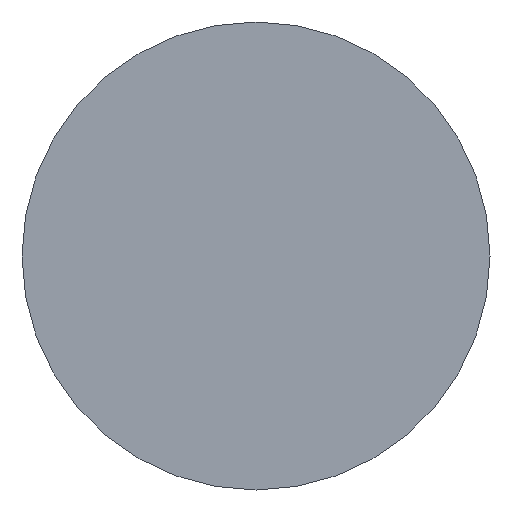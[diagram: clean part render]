
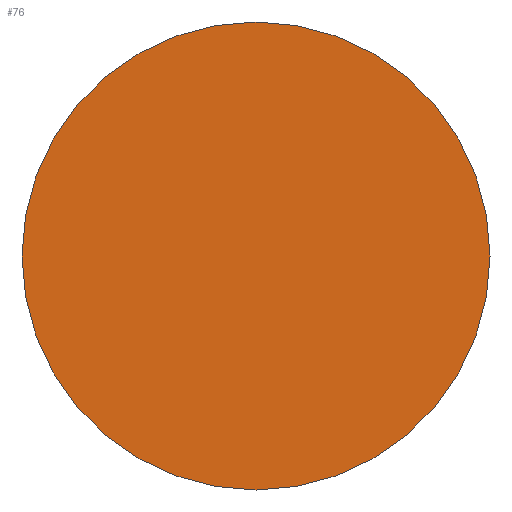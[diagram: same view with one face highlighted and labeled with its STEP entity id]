
A CAD part, front view. The second image highlights one B-rep face of the part: STEP entity #76.
In plain terms, the highlighted planar face has unit normal (0, -1, 0).
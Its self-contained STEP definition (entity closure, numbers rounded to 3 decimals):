
#2 = DIRECTION ( 'NONE',  ( 0., 0., -1. ) ) ;
#38 = EDGE_CURVE ( 'NONE', #428, #157, #91, .T. ) ;
#61 = AXIS2_PLACEMENT_3D ( 'NONE', #288, #372, #251 ) ;
#76 = ADVANCED_FACE ( 'NONE', ( #175 ), #131, .T. ) ;
#91 = CIRCLE ( 'NONE', #186, 6. ) ;
#122 = DIRECTION ( 'NONE',  ( 0., -1., 0. ) ) ;
#131 = PLANE ( 'NONE',  #274 ) ;
#157 = VERTEX_POINT ( 'NONE', #283 ) ;
#175 = FACE_OUTER_BOUND ( 'NONE', #380, .T. ) ;
#186 = AXIS2_PLACEMENT_3D ( 'NONE', #273, #122, #432 ) ;
#215 = EDGE_CURVE ( 'NONE', #157, #428, #385, .T. ) ;
#225 = ORIENTED_EDGE ( 'NONE', *, *, #215, .T. ) ;
#251 = DIRECTION ( 'NONE',  ( 0., 0., -1. ) ) ;
#273 = CARTESIAN_POINT ( 'NONE',  ( 0., 0., 0. ) ) ;
#274 = AXIS2_PLACEMENT_3D ( 'NONE', #398, #396, #2 ) ;
#283 = CARTESIAN_POINT ( 'NONE',  ( 0., 0., -6. ) ) ;
#288 = CARTESIAN_POINT ( 'NONE',  ( 0., 0., 0. ) ) ;
#361 = ORIENTED_EDGE ( 'NONE', *, *, #38, .T. ) ;
#372 = DIRECTION ( 'NONE',  ( 0., -1., 0. ) ) ;
#380 = EDGE_LOOP ( 'NONE', ( #225, #361 ) ) ;
#385 = CIRCLE ( 'NONE', #61, 6. ) ;
#396 = DIRECTION ( 'NONE',  ( 0., -1., 0. ) ) ;
#398 = CARTESIAN_POINT ( 'NONE',  ( 6., 0., 0. ) ) ;
#428 = VERTEX_POINT ( 'NONE', #448 ) ;
#432 = DIRECTION ( 'NONE',  ( 0., 0., -1. ) ) ;
#448 = CARTESIAN_POINT ( 'NONE',  ( 0., 0., 6. ) ) ;
